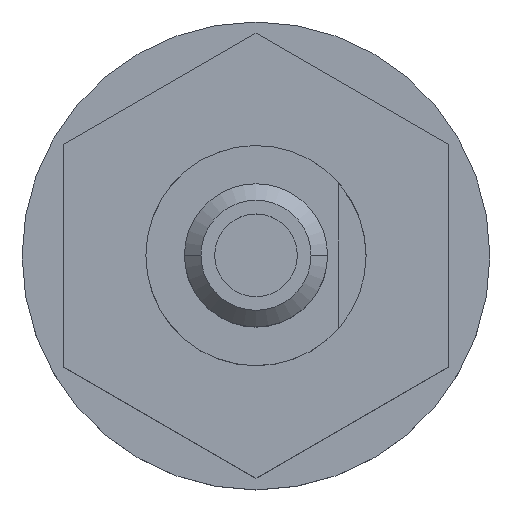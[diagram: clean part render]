
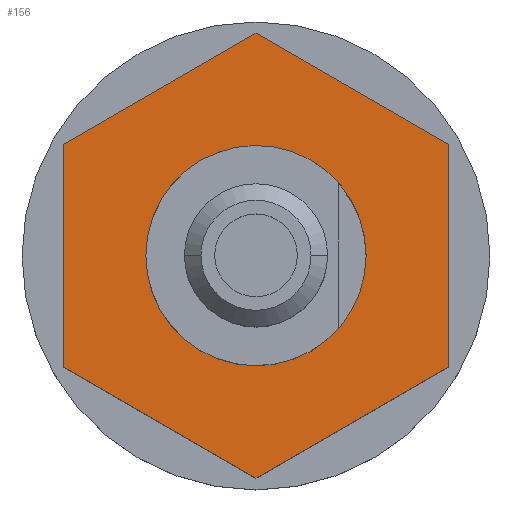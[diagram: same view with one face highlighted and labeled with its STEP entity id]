
A CAD part, top view. The second image highlights one B-rep face of the part: STEP entity #156.
In plain terms, the highlighted planar face has unit normal (0, 0, 1) as drawn and (-1, 0, 0) by its records, which use the part's own axes.
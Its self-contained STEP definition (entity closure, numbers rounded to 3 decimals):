
#105 = ORIENTED_EDGE ( 'NONE', *, *, #106, .F. ) ;
#106 = EDGE_CURVE ( 'NONE', #197, #196, #636, .T. ) ;
#156 = ADVANCED_FACE ( 'NONE', ( #743, #742 ), #741, .T. ) ;
#157 = EDGE_LOOP ( 'NONE', ( #158, #162, #165, #168, #171, #174 ) ) ;
#158 = ORIENTED_EDGE ( 'NONE', *, *, #159, .T. ) ;
#159 = EDGE_CURVE ( 'NONE', #160, #161, #736, .T. ) ;
#160 = VERTEX_POINT ( 'NONE', #732 ) ;
#161 = VERTEX_POINT ( 'NONE', #731 ) ;
#162 = ORIENTED_EDGE ( 'NONE', *, *, #163, .T. ) ;
#163 = EDGE_CURVE ( 'NONE', #161, #164, #730, .T. ) ;
#164 = VERTEX_POINT ( 'NONE', #726 ) ;
#165 = ORIENTED_EDGE ( 'NONE', *, *, #166, .T. ) ;
#166 = EDGE_CURVE ( 'NONE', #164, #167, #725, .T. ) ;
#167 = VERTEX_POINT ( 'NONE', #721 ) ;
#168 = ORIENTED_EDGE ( 'NONE', *, *, #169, .T. ) ;
#169 = EDGE_CURVE ( 'NONE', #167, #170, #720, .T. ) ;
#170 = VERTEX_POINT ( 'NONE', #783 ) ;
#171 = ORIENTED_EDGE ( 'NONE', *, *, #172, .T. ) ;
#172 = EDGE_CURVE ( 'NONE', #170, #173, #782, .T. ) ;
#173 = VERTEX_POINT ( 'NONE', #778 ) ;
#174 = ORIENTED_EDGE ( 'NONE', *, *, #175, .T. ) ;
#175 = EDGE_CURVE ( 'NONE', #173, #160, #777, .T. ) ;
#176 = EDGE_LOOP ( 'NONE', ( #177, #105 ) ) ;
#177 = ORIENTED_EDGE ( 'NONE', *, *, #195, .F. ) ;
#195 = EDGE_CURVE ( 'NONE', #196, #197, #816, .T. ) ;
#196 = VERTEX_POINT ( 'NONE', #811 ) ;
#197 = VERTEX_POINT ( 'NONE', #810 ) ;
#632 = DIRECTION ( 'NONE',  ( 0., -1., 0. ) ) ;
#633 = DIRECTION ( 'NONE',  ( -1., 0., 0. ) ) ;
#634 = CARTESIAN_POINT ( 'NONE',  ( 4.1, 0., 0. ) ) ;
#635 = AXIS2_PLACEMENT_3D ( 'NONE', #634, #633, #632 ) ;
#636 = CIRCLE ( 'NONE', #635, 2. ) ;
#720 = LINE ( 'NONE', #786, #785 ) ;
#721 = CARTESIAN_POINT ( 'NONE',  ( 4.1, -2.021, -3.5 ) ) ;
#722 = DIRECTION ( 'NONE',  ( 0., -1., 0. ) ) ;
#723 = VECTOR ( 'NONE', #722, 1000. ) ;
#724 = CARTESIAN_POINT ( 'NONE',  ( 4.1, 2.021, -3.5 ) ) ;
#725 = LINE ( 'NONE', #724, #723 ) ;
#726 = CARTESIAN_POINT ( 'NONE',  ( 4.1, 2.021, -3.5 ) ) ;
#727 = DIRECTION ( 'NONE',  ( 0., -0.5, -0.866 ) ) ;
#728 = VECTOR ( 'NONE', #727, 1000. ) ;
#729 = CARTESIAN_POINT ( 'NONE',  ( 4.1, 4.041, 0. ) ) ;
#730 = LINE ( 'NONE', #729, #728 ) ;
#731 = CARTESIAN_POINT ( 'NONE',  ( 4.1, 4.041, 0. ) ) ;
#732 = CARTESIAN_POINT ( 'NONE',  ( 4.1, 2.021, 3.5 ) ) ;
#733 = DIRECTION ( 'NONE',  ( 0., 0.5, -0.866 ) ) ;
#734 = VECTOR ( 'NONE', #733, 1000. ) ;
#735 = CARTESIAN_POINT ( 'NONE',  ( 4.1, 2.021, 3.5 ) ) ;
#736 = LINE ( 'NONE', #735, #734 ) ;
#737 = DIRECTION ( 'NONE',  ( 0., -1., 0. ) ) ;
#738 = DIRECTION ( 'NONE',  ( -1., 0., 0. ) ) ;
#739 = CARTESIAN_POINT ( 'NONE',  ( 4.1, 4.041, 0. ) ) ;
#740 = AXIS2_PLACEMENT_3D ( 'NONE', #739, #738, #737 ) ;
#741 = PLANE ( 'NONE',  #740 ) ;
#742 = FACE_BOUND ( 'NONE', #176, .T. ) ;
#743 = FACE_OUTER_BOUND ( 'NONE', #157, .T. ) ;
#774 = DIRECTION ( 'NONE',  ( 0., 1., 0. ) ) ;
#775 = VECTOR ( 'NONE', #774, 1000. ) ;
#776 = CARTESIAN_POINT ( 'NONE',  ( 4.1, -2.021, 3.5 ) ) ;
#777 = LINE ( 'NONE', #776, #775 ) ;
#778 = CARTESIAN_POINT ( 'NONE',  ( 4.1, -2.021, 3.5 ) ) ;
#779 = DIRECTION ( 'NONE',  ( 0., 0.5, 0.866 ) ) ;
#780 = VECTOR ( 'NONE', #779, 1000. ) ;
#781 = CARTESIAN_POINT ( 'NONE',  ( 4.1, -4.041, 0. ) ) ;
#782 = LINE ( 'NONE', #781, #780 ) ;
#783 = CARTESIAN_POINT ( 'NONE',  ( 4.1, -4.041, 0. ) ) ;
#784 = DIRECTION ( 'NONE',  ( 0., -0.5, 0.866 ) ) ;
#785 = VECTOR ( 'NONE', #784, 1000. ) ;
#786 = CARTESIAN_POINT ( 'NONE',  ( 4.1, -2.021, -3.5 ) ) ;
#810 = CARTESIAN_POINT ( 'NONE',  ( 4.1, -2., 0. ) ) ;
#811 = CARTESIAN_POINT ( 'NONE',  ( 4.1, 2., 0. ) ) ;
#812 = DIRECTION ( 'NONE',  ( 0., -1., 0. ) ) ;
#813 = DIRECTION ( 'NONE',  ( -1., 0., 0. ) ) ;
#814 = CARTESIAN_POINT ( 'NONE',  ( 4.1, 0., 0. ) ) ;
#815 = AXIS2_PLACEMENT_3D ( 'NONE', #814, #813, #812 ) ;
#816 = CIRCLE ( 'NONE', #815, 2. ) ;
